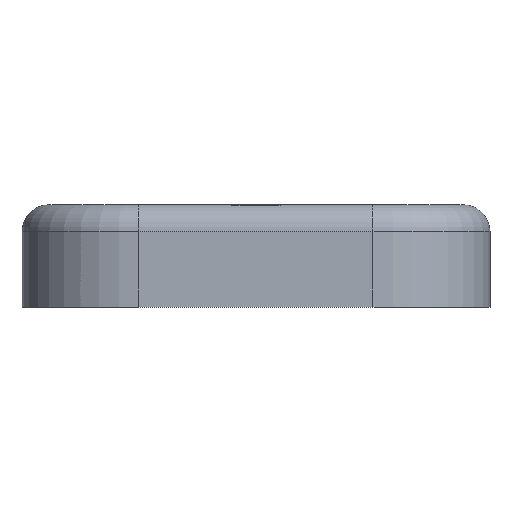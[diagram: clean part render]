
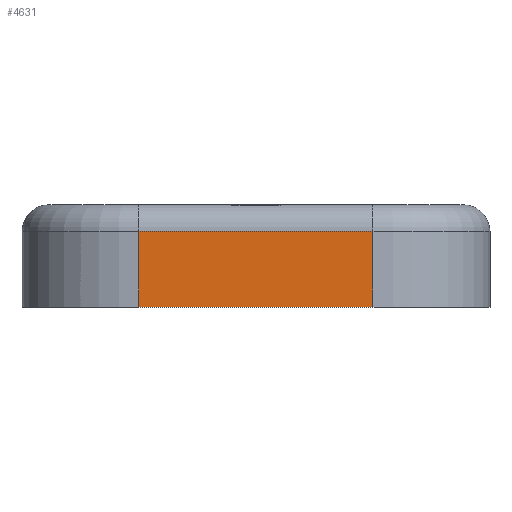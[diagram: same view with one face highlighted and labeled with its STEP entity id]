
A CAD part, front view. The second image highlights one B-rep face of the part: STEP entity #4631.
In plain terms, the highlighted planar face has unit normal (0, -1, 0).
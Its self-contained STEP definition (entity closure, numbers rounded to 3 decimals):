
#105 = CYLINDRICAL_SURFACE('',#106,5.);
#106 = AXIS2_PLACEMENT_3D('',#107,#108,#109);
#107 = CARTESIAN_POINT('',(22.,-63.,6.75));
#108 = DIRECTION('',(-1.,-0.,-0.));
#109 = DIRECTION('',(0.,-1.,0.));
#1473 = VERTEX_POINT('',#1474);
#1474 = CARTESIAN_POINT('',(22.,-68.,6.75));
#1511 = CYLINDRICAL_SURFACE('',#1512,22.);
#1512 = AXIS2_PLACEMENT_3D('',#1513,#1514,#1515);
#1513 = CARTESIAN_POINT('',(22.,-46.,-12.75));
#1514 = DIRECTION('',(0.,0.,1.));
#1515 = DIRECTION('',(1.,0.,-0.));
#1527 = EDGE_CURVE('',#1473,#1528,#1530,.T.);
#1528 = VERTEX_POINT('',#1529);
#1529 = CARTESIAN_POINT('',(-22.,-68.,6.75));
#1530 = SURFACE_CURVE('',#1531,(#1535,#1542),.PCURVE_S1.);
#1531 = LINE('',#1532,#1533);
#1532 = CARTESIAN_POINT('',(22.,-68.,6.75));
#1533 = VECTOR('',#1534,1.);
#1534 = DIRECTION('',(-1.,-0.,-0.));
#1535 = PCURVE('',#105,#1536);
#1536 = DEFINITIONAL_REPRESENTATION('',(#1537),#1541);
#1537 = LINE('',#1538,#1539);
#1538 = CARTESIAN_POINT('',(0.,0.));
#1539 = VECTOR('',#1540,1.);
#1540 = DIRECTION('',(0.,1.));
#1541 = ( GEOMETRIC_REPRESENTATION_CONTEXT(2) 
PARAMETRIC_REPRESENTATION_CONTEXT() REPRESENTATION_CONTEXT('2D SPACE',''
  ) );
#1542 = PCURVE('',#1543,#1548);
#1543 = PLANE('',#1544);
#1544 = AXIS2_PLACEMENT_3D('',#1545,#1546,#1547);
#1545 = CARTESIAN_POINT('',(-44.,-68.,-12.75));
#1546 = DIRECTION('',(0.,1.,0.));
#1547 = DIRECTION('',(0.,-0.,1.));
#1548 = DEFINITIONAL_REPRESENTATION('',(#1549),#1553);
#1549 = LINE('',#1550,#1551);
#1550 = CARTESIAN_POINT('',(19.5,66.));
#1551 = VECTOR('',#1552,1.);
#1552 = DIRECTION('',(0.,-1.));
#1553 = ( GEOMETRIC_REPRESENTATION_CONTEXT(2) 
PARAMETRIC_REPRESENTATION_CONTEXT() REPRESENTATION_CONTEXT('2D SPACE',''
  ) );
#2189 = CYLINDRICAL_SURFACE('',#2190,22.);
#2190 = AXIS2_PLACEMENT_3D('',#2191,#2192,#2193);
#2191 = CARTESIAN_POINT('',(-22.,-46.,-12.75));
#2192 = DIRECTION('',(0.,0.,1.));
#2193 = DIRECTION('',(-1.,-0.,0.));
#2726 = PLANE('',#2727);
#2727 = AXIS2_PLACEMENT_3D('',#2728,#2729,#2730);
#2728 = CARTESIAN_POINT('',(-90.,-110.,-7.5));
#2729 = DIRECTION('',(0.,0.,1.));
#2730 = DIRECTION('',(1.,0.,-0.));
#4586 = EDGE_CURVE('',#4587,#1473,#4589,.T.);
#4587 = VERTEX_POINT('',#4588);
#4588 = CARTESIAN_POINT('',(22.,-68.,-7.5));
#4589 = SURFACE_CURVE('',#4590,(#4594,#4601),.PCURVE_S1.);
#4590 = LINE('',#4591,#4592);
#4591 = CARTESIAN_POINT('',(22.,-68.,-12.75));
#4592 = VECTOR('',#4593,1.);
#4593 = DIRECTION('',(0.,0.,1.));
#4594 = PCURVE('',#1511,#4595);
#4595 = DEFINITIONAL_REPRESENTATION('',(#4596),#4600);
#4596 = LINE('',#4597,#4598);
#4597 = CARTESIAN_POINT('',(4.712,0.));
#4598 = VECTOR('',#4599,1.);
#4599 = DIRECTION('',(-0.,1.));
#4600 = ( GEOMETRIC_REPRESENTATION_CONTEXT(2) 
PARAMETRIC_REPRESENTATION_CONTEXT() REPRESENTATION_CONTEXT('2D SPACE',''
  ) );
#4601 = PCURVE('',#1543,#4602);
#4602 = DEFINITIONAL_REPRESENTATION('',(#4603),#4607);
#4603 = LINE('',#4604,#4605);
#4604 = CARTESIAN_POINT('',(0.,66.));
#4605 = VECTOR('',#4606,1.);
#4606 = DIRECTION('',(1.,0.));
#4607 = ( GEOMETRIC_REPRESENTATION_CONTEXT(2) 
PARAMETRIC_REPRESENTATION_CONTEXT() REPRESENTATION_CONTEXT('2D SPACE',''
  ) );
#4631 = ADVANCED_FACE('',(#4632),#1543,.F.);
#4632 = FACE_BOUND('',#4633,.F.);
#4633 = EDGE_LOOP('',(#4634,#4657,#4678,#4679));
#4634 = ORIENTED_EDGE('',*,*,#4635,.F.);
#4635 = EDGE_CURVE('',#4636,#4587,#4638,.T.);
#4636 = VERTEX_POINT('',#4637);
#4637 = CARTESIAN_POINT('',(-22.,-68.,-7.5));
#4638 = SURFACE_CURVE('',#4639,(#4643,#4650),.PCURVE_S1.);
#4639 = LINE('',#4640,#4641);
#4640 = CARTESIAN_POINT('',(-67.,-68.,-7.5));
#4641 = VECTOR('',#4642,1.);
#4642 = DIRECTION('',(1.,0.,0.));
#4643 = PCURVE('',#1543,#4644);
#4644 = DEFINITIONAL_REPRESENTATION('',(#4645),#4649);
#4645 = LINE('',#4646,#4647);
#4646 = CARTESIAN_POINT('',(5.25,-23.));
#4647 = VECTOR('',#4648,1.);
#4648 = DIRECTION('',(0.,1.));
#4649 = ( GEOMETRIC_REPRESENTATION_CONTEXT(2) 
PARAMETRIC_REPRESENTATION_CONTEXT() REPRESENTATION_CONTEXT('2D SPACE',''
  ) );
#4650 = PCURVE('',#2726,#4651);
#4651 = DEFINITIONAL_REPRESENTATION('',(#4652),#4656);
#4652 = LINE('',#4653,#4654);
#4653 = CARTESIAN_POINT('',(23.,42.));
#4654 = VECTOR('',#4655,1.);
#4655 = DIRECTION('',(1.,0.));
#4656 = ( GEOMETRIC_REPRESENTATION_CONTEXT(2) 
PARAMETRIC_REPRESENTATION_CONTEXT() REPRESENTATION_CONTEXT('2D SPACE',''
  ) );
#4657 = ORIENTED_EDGE('',*,*,#4658,.T.);
#4658 = EDGE_CURVE('',#4636,#1528,#4659,.T.);
#4659 = SURFACE_CURVE('',#4660,(#4664,#4671),.PCURVE_S1.);
#4660 = LINE('',#4661,#4662);
#4661 = CARTESIAN_POINT('',(-22.,-68.,-12.75));
#4662 = VECTOR('',#4663,1.);
#4663 = DIRECTION('',(0.,0.,1.));
#4664 = PCURVE('',#1543,#4665);
#4665 = DEFINITIONAL_REPRESENTATION('',(#4666),#4670);
#4666 = LINE('',#4667,#4668);
#4667 = CARTESIAN_POINT('',(0.,22.));
#4668 = VECTOR('',#4669,1.);
#4669 = DIRECTION('',(1.,0.));
#4670 = ( GEOMETRIC_REPRESENTATION_CONTEXT(2) 
PARAMETRIC_REPRESENTATION_CONTEXT() REPRESENTATION_CONTEXT('2D SPACE',''
  ) );
#4671 = PCURVE('',#2189,#4672);
#4672 = DEFINITIONAL_REPRESENTATION('',(#4673),#4677);
#4673 = LINE('',#4674,#4675);
#4674 = CARTESIAN_POINT('',(1.571,0.));
#4675 = VECTOR('',#4676,1.);
#4676 = DIRECTION('',(0.,1.));
#4677 = ( GEOMETRIC_REPRESENTATION_CONTEXT(2) 
PARAMETRIC_REPRESENTATION_CONTEXT() REPRESENTATION_CONTEXT('2D SPACE',''
  ) );
#4678 = ORIENTED_EDGE('',*,*,#1527,.F.);
#4679 = ORIENTED_EDGE('',*,*,#4586,.F.);
